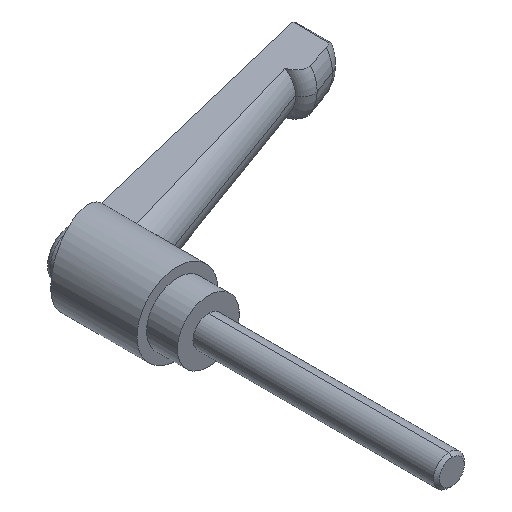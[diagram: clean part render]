
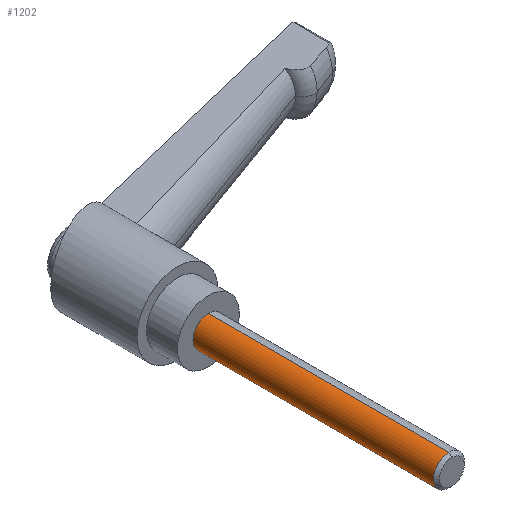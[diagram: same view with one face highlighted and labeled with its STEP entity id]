
A CAD part, isometric view. The second image highlights one B-rep face of the part: STEP entity #1202.
In plain terms, the highlighted cylindrical face has radius 4 mm (diameter 8 mm), a partial arc.
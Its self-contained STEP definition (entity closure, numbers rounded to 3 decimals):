
#56 = VERTEX_POINT ( 'NONE', #552 ) ;
#191 = EDGE_CURVE ( 'NONE', #485, #1333, #1135, .T. ) ;
#205 = CARTESIAN_POINT ( 'NONE',  ( 0., -63., 4. ) ) ;
#221 = DIRECTION ( 'NONE',  ( 0., -1., 0. ) ) ;
#250 = CIRCLE ( 'NONE', #1726, 4. ) ;
#293 = EDGE_CURVE ( 'NONE', #56, #1333, #250, .T. ) ;
#401 = EDGE_CURVE ( 'NONE', #1893, #56, #1825, .T. ) ;
#485 = VERTEX_POINT ( 'NONE', #1122 ) ;
#552 = CARTESIAN_POINT ( 'NONE',  ( 0., -62.233, 4. ) ) ;
#556 = ORIENTED_EDGE ( 'NONE', *, *, #293, .F. ) ;
#648 = ORIENTED_EDGE ( 'NONE', *, *, #1020, .T. ) ;
#679 = ORIENTED_EDGE ( 'NONE', *, *, #191, .T. ) ;
#702 = AXIS2_PLACEMENT_3D ( 'NONE', #2025, #221, #764 ) ;
#735 = CIRCLE ( 'NONE', #702, 4. ) ;
#764 = DIRECTION ( 'NONE',  ( 0., 0., -1. ) ) ;
#766 = DIRECTION ( 'NONE',  ( 0., -1., 0. ) ) ;
#808 = DIRECTION ( 'NONE',  ( 0., -1., 0. ) ) ;
#826 = ORIENTED_EDGE ( 'NONE', *, *, #401, .F. ) ;
#880 = CARTESIAN_POINT ( 'NONE',  ( 0., 0., 4. ) ) ;
#971 = DIRECTION ( 'NONE',  ( 0., 0., -1. ) ) ;
#995 = CYLINDRICAL_SURFACE ( 'NONE', #1834, 4. ) ;
#1020 = EDGE_CURVE ( 'NONE', #1893, #485, #735, .T. ) ;
#1122 = CARTESIAN_POINT ( 'NONE',  ( 0., 0., -4. ) ) ;
#1125 = EDGE_LOOP ( 'NONE', ( #826, #648, #679, #556 ) ) ;
#1135 = LINE ( 'NONE', #1864, #1985 ) ;
#1202 = ADVANCED_FACE ( 'NONE', ( #2267 ), #995, .T. ) ;
#1331 = DIRECTION ( 'NONE',  ( 0., -1., 0. ) ) ;
#1333 = VERTEX_POINT ( 'NONE', #2196 ) ;
#1496 = DIRECTION ( 'NONE',  ( 0., 0., -1. ) ) ;
#1572 = VECTOR ( 'NONE', #1644, 1000. ) ;
#1644 = DIRECTION ( 'NONE',  ( 0., -1., 0. ) ) ;
#1658 = CARTESIAN_POINT ( 'NONE',  ( 0., -62.233, 0. ) ) ;
#1711 = CARTESIAN_POINT ( 'NONE',  ( 0., -63., 0. ) ) ;
#1726 = AXIS2_PLACEMENT_3D ( 'NONE', #1658, #766, #1496 ) ;
#1825 = LINE ( 'NONE', #205, #1572 ) ;
#1834 = AXIS2_PLACEMENT_3D ( 'NONE', #1711, #1331, #971 ) ;
#1864 = CARTESIAN_POINT ( 'NONE',  ( 0., -63., -4. ) ) ;
#1893 = VERTEX_POINT ( 'NONE', #880 ) ;
#1985 = VECTOR ( 'NONE', #808, 1000. ) ;
#2025 = CARTESIAN_POINT ( 'NONE',  ( 0., 0., 0. ) ) ;
#2196 = CARTESIAN_POINT ( 'NONE',  ( 0., -62.233, -4. ) ) ;
#2267 = FACE_OUTER_BOUND ( 'NONE', #1125, .T. ) ;
